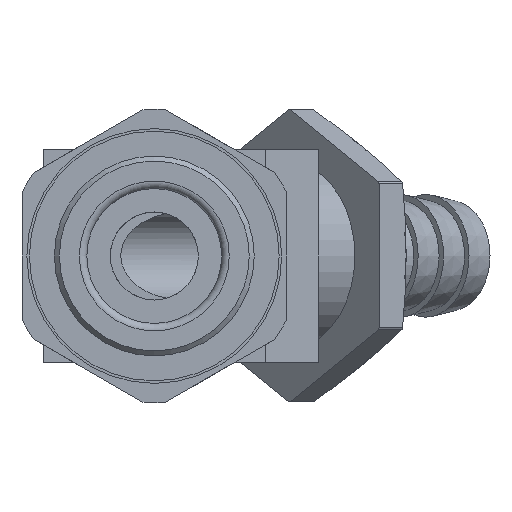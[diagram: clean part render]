
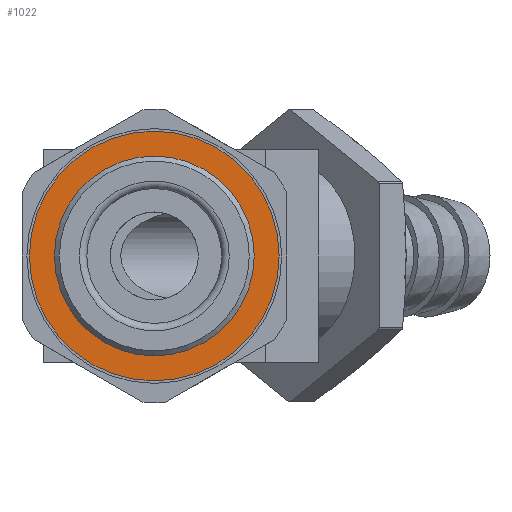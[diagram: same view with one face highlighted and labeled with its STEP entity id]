
A CAD part, left-side view. The second image highlights one B-rep face of the part: STEP entity #1022.
In plain terms, the highlighted planar face has unit normal (-1, 0, 0).
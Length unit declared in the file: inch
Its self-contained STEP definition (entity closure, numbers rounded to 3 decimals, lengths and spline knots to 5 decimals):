
#24=PLANE('',#1143);
#208=CIRCLE('',#1142,0.472);
#209=CIRCLE('',#1144,0.59);
#342=ORIENTED_EDGE('',*,*,#600,.F.);
#343=ORIENTED_EDGE('',*,*,#599,.T.);
#599=EDGE_CURVE('',#716,#716,#208,.T.);
#600=EDGE_CURVE('',#717,#717,#209,.T.);
#716=VERTEX_POINT('',#1825);
#717=VERTEX_POINT('',#1828);
#799=EDGE_LOOP('',(#342));
#800=EDGE_LOOP('',(#343));
#902=FACE_BOUND('',#799,.T.);
#903=FACE_BOUND('',#800,.T.);
#1022=ADVANCED_FACE('',(#902,#903),#24,.F.);
#1142=AXIS2_PLACEMENT_3D('',#1824,#1370,#1371);
#1143=AXIS2_PLACEMENT_3D('',#1826,#1372,#1373);
#1144=AXIS2_PLACEMENT_3D('',#1827,#1374,#1375);
#1370=DIRECTION('',(1.,0.,0.));
#1371=DIRECTION('',(0.,0.,-1.));
#1372=DIRECTION('',(1.,0.,0.));
#1373=DIRECTION('',(0.,0.,-1.));
#1374=DIRECTION('',(1.,0.,0.));
#1375=DIRECTION('',(0.,0.,-1.));
#1824=CARTESIAN_POINT('',(0.,0.,0.));
#1825=CARTESIAN_POINT('',(0.,0.,-0.472));
#1826=CARTESIAN_POINT('',(0.,0.472,0.));
#1827=CARTESIAN_POINT('',(0.,0.,0.));
#1828=CARTESIAN_POINT('',(0.,0.,-0.59));
